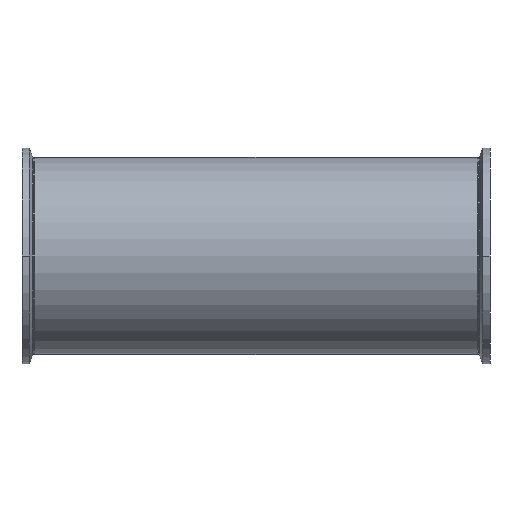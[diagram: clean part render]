
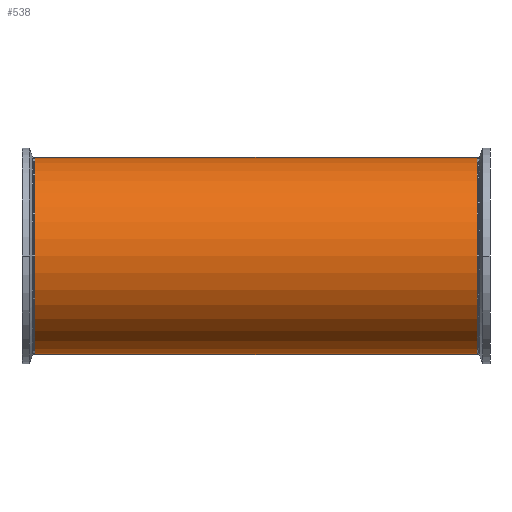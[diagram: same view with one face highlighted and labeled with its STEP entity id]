
A CAD part, front view. The second image highlights one B-rep face of the part: STEP entity #538.
In plain terms, the highlighted cylindrical face has radius 76.2 mm (diameter 152.4 mm), a partial arc.
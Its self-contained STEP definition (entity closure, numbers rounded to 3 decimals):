
#245 = CARTESIAN_POINT ( 'NONE',  ( 386.526, 0., -76.2 ) ) ;
#263 = ORIENTED_EDGE ( 'NONE', *, *, #2215, .T. ) ;
#299 = DIRECTION ( 'NONE',  ( -1., 0., 0. ) ) ;
#308 = LINE ( 'NONE', #4940, #4586 ) ;
#315 = DIRECTION ( 'NONE',  ( 0., 0., 1. ) ) ;
#538 = ADVANCED_FACE ( 'NONE', ( #5580 ), #5502, .T. ) ;
#566 = AXIS2_PLACEMENT_3D ( 'NONE', #4838, #299, #315 ) ;
#664 = AXIS2_PLACEMENT_3D ( 'NONE', #5425, #5776, #5382 ) ;
#753 = ORIENTED_EDGE ( 'NONE', *, *, #5313, .F. ) ;
#950 = EDGE_CURVE ( 'NONE', #3314, #3012, #3456, .T. ) ;
#961 = VERTEX_POINT ( 'NONE', #4607 ) ;
#1107 = CARTESIAN_POINT ( 'NONE',  ( -171., 0., 0. ) ) ;
#1559 = DIRECTION ( 'NONE',  ( 0., 0., 1. ) ) ;
#1592 = AXIS2_PLACEMENT_3D ( 'NONE', #1107, #4316, #1559 ) ;
#1738 = DIRECTION ( 'NONE',  ( -1., 0., 0. ) ) ;
#1937 = ORIENTED_EDGE ( 'NONE', *, *, #3413, .T. ) ;
#2130 = VECTOR ( 'NONE', #5656, 1000. ) ;
#2143 = CARTESIAN_POINT ( 'NONE',  ( 171., 0., -76.2 ) ) ;
#2160 = CIRCLE ( 'NONE', #1592, 76.2 ) ;
#2163 = ORIENTED_EDGE ( 'NONE', *, *, #950, .T. ) ;
#2215 = EDGE_CURVE ( 'NONE', #3012, #961, #308, .T. ) ;
#3012 = VERTEX_POINT ( 'NONE', #3947 ) ;
#3314 = VERTEX_POINT ( 'NONE', #2143 ) ;
#3413 = EDGE_CURVE ( 'NONE', #961, #5160, #2160, .T. ) ;
#3456 = CIRCLE ( 'NONE', #566, 76.2 ) ;
#3947 = CARTESIAN_POINT ( 'NONE',  ( 171., 0., 76.2 ) ) ;
#4316 = DIRECTION ( 'NONE',  ( 1., 0., 0. ) ) ;
#4586 = VECTOR ( 'NONE', #1738, 1000. ) ;
#4607 = CARTESIAN_POINT ( 'NONE',  ( -171., 0., 76.2 ) ) ;
#4688 = LINE ( 'NONE', #245, #2130 ) ;
#4722 = CARTESIAN_POINT ( 'NONE',  ( -171., 0., -76.2 ) ) ;
#4838 = CARTESIAN_POINT ( 'NONE',  ( 171., 0., 0. ) ) ;
#4940 = CARTESIAN_POINT ( 'NONE',  ( 386.526, 0., 76.2 ) ) ;
#5160 = VERTEX_POINT ( 'NONE', #4722 ) ;
#5313 = EDGE_CURVE ( 'NONE', #3314, #5160, #4688, .T. ) ;
#5382 = DIRECTION ( 'NONE',  ( 0., 0., 1. ) ) ;
#5425 = CARTESIAN_POINT ( 'NONE',  ( 386.526, 0., 0. ) ) ;
#5502 = CYLINDRICAL_SURFACE ( 'NONE', #664, 76.2 ) ;
#5580 = FACE_OUTER_BOUND ( 'NONE', #5705, .T. ) ;
#5656 = DIRECTION ( 'NONE',  ( -1., 0., 0. ) ) ;
#5705 = EDGE_LOOP ( 'NONE', ( #753, #2163, #263, #1937 ) ) ;
#5776 = DIRECTION ( 'NONE',  ( -1., 0., 0. ) ) ;
